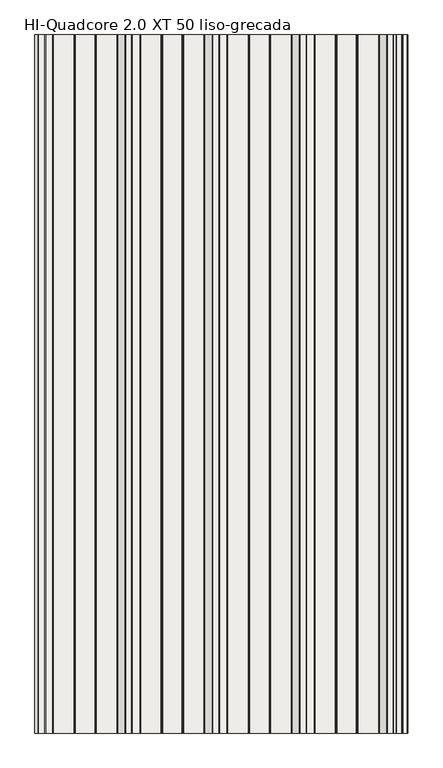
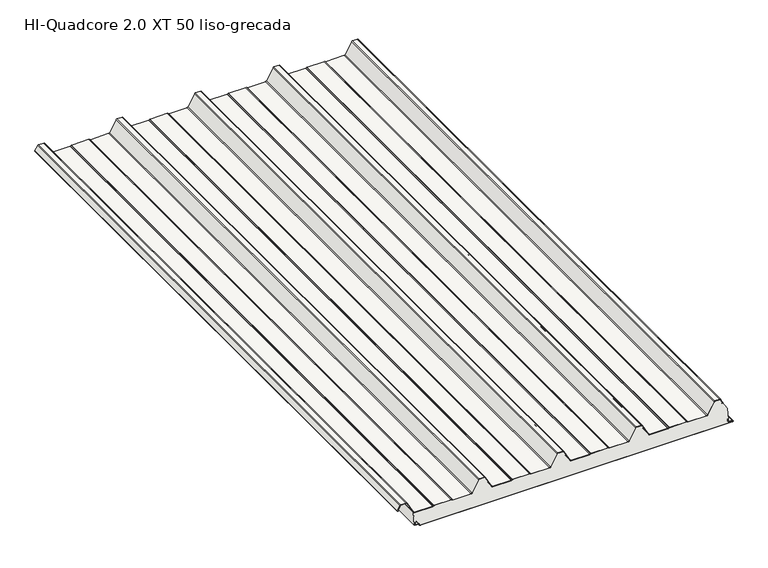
"""IFC4 building model written with IfcOpenShell, lengths in millimetres: slab geometry, HI_QuadCore2.0XT-XT DUAL : HI-Quadcore 2.0 XT 50 liso-grecada."""

from ifc_helpers import new_model, si_unit, point, frame, frame_2d, origin, place, context, project, spatial, polyline, circle_curve, trimmed, segment, composite_curve, outline, extrude, source, transform, mapped, element, save
from ifc_brep_helpers import plane_surface, cylinder_surface, revolved_surface, advanced_brep


def hi_quadcore_2_0_xt_50_liso_grecada_a248ecb3(model_context):
    return source(origin(), model_context, "Body", "SolidModel", [
        advanced_brep(
        [(1186.4313891, 0.0, 13.3795578), (1185.8456418, 0.0, 11.9654043), (1185.8456037, 0.0, 8.2995811), (1187.6996787, 0.0, 6.328543), (1198.1077232, 0.0, 5.5663871), (1199.9032632, 0.0, 3.5769209), (1199.9033076, 0.0, 1.9756011), (1201.903363, 0.0, -0.0243435), (2197.9162803, 0.0, 0.003269), (2199.9046779, 0.0, 2.0032908), (2199.904653, 0.0, 2.9012893), (2198.0077486, 0.0, 4.8985749), (2186.1928118, 0.0, 5.7933732), (2184.3438482, 0.0, 7.7876066), (2184.3437386, 0.0, 11.7402379), (2183.757913, 0.0, 13.1544352), (2182.3436602, 0.0, 14.5686095), (2181.7779748, 0.0, 14.0029241), (2183.1922433, 0.0, 12.5887341), (2183.5437386, 0.0, 11.7402157), (2183.5438482, 0.0, 7.7875844), (2186.1323972, 0.0, 4.9956577), (2197.958132, 0.0, 4.1000416), (2199.104653, 0.0, 2.9012672), (2199.1046779, 0.0, 2.0032686), (2197.9136554, 0.0, 0.8032689), (1201.9033408, 0.0, 0.7756565), (1200.7033076, 0.0, 1.9756233), (1200.7032632, 0.0, 3.5769431), (1198.1768616, 0.0, 6.3634663), (1187.7581044, 0.0, 7.1264067), (1186.6457428, 0.0, 8.3231689), (1186.6456418, 0.0, 11.965396), (1186.9970902, 0.0, 12.8138881), (1189.1032183, 0.0, 14.920133), (1188.5375329, 0.0, 15.4858184), (1186.4313891, 2000.0, 13.3795578), (1188.5375329, 2000.0, 15.4858184), (1189.1032183, 2000.0, 14.920133), (1186.9970902, 2000.0, 12.8138881), (1186.6456418, 2000.0, 11.965396), (1186.6456037, 2000.0, 8.2995728), (1187.7581044, 2000.0, 7.1264067), (1198.1768616, 2000.0, 6.3634663), (1200.7032632, 2000.0, 3.5769431), (1200.7033076, 2000.0, 1.9756233), (1201.9033408, 2000.0, 0.7756565), (2197.9136554, 2000.0, 0.8032689), (2199.1046779, 2000.0, 2.0032686), (2199.104653, 2000.0, 2.9012672), (2197.958132, 2000.0, 4.1000416), (2186.1323972, 2000.0, 4.9956577), (2183.5438482, 2000.0, 7.7875844), (2183.5437386, 2000.0, 11.7402157), (2183.1922433, 2000.0, 12.5887341), (2181.7779748, 2000.0, 14.0029241), (2182.3436602, 2000.0, 14.5686095), (2183.757913, 2000.0, 13.1544352), (2184.3437386, 2000.0, 11.7402379), (2184.3438482, 2000.0, 7.7876066), (2186.1928118, 2000.0, 5.7933732), (2198.0077486, 2000.0, 4.8985749), (2199.904653, 2000.0, 2.9012893), (2199.9046779, 2000.0, 2.0032908), (2197.9162803, 2000.0, 0.003269), (1201.903363, 2000.0, -0.0243435), (1199.9033076, 2000.0, 1.9756011), (1199.9032632, 2000.0, 3.5769209), (1198.1077232, 2000.0, 5.5663871), (1187.6996787, 2000.0, 6.328543), (1185.8457428, 2000.0, 8.3231467), (1185.8456418, 2000.0, 11.9654043)],
        [
            (0, 1, circle_curve(frame((1187.8456418, 0.0, 11.9653834), z_axis=(0.0, -1.0, 0.0), x_axis=(1.0, 0.0, 0.0)), 2.0)),
            (1, 2),
            (2, 3, circle_curve(frame((1187.8457428, 0.0, 8.3232022), z_axis=(0.0, -1.0, 0.0), x_axis=(1.0, 0.0, 0.0)), 2.0)),
            (3, 4),
            (4, 5, circle_curve(frame((1197.9032632, 0.0, 3.5768655), z_axis=(0.0, 1.0, 0.0), x_axis=(1.0, 0.0, 0.0)), 2.0)),
            (5, 6),
            (6, 7, circle_curve(frame((1201.9033076, 0.0, 1.9756565), z_axis=(0.0, -1.0, 0.0), x_axis=(1.0, 0.0, 0.0)), 2.0)),
            (7, 8),
            (8, 9, circle_curve(frame((2197.9046779, 0.0, 2.0032353), z_axis=(0.0, -1.0, 0.0), x_axis=(1.0, 0.0, 0.0)), 2.0)),
            (9, 10),
            (10, 11, circle_curve(frame((2197.904653, 0.0, 2.9012339), z_axis=(0.0, -1.0, 0.0), x_axis=(1.0, 0.0, 0.0)), 2.0)),
            (11, 12),
            (12, 13, circle_curve(frame((2186.3438482, 0.0, 7.7876621), z_axis=(0.0, 1.0, 0.0), x_axis=(1.0, 0.0, 0.0)), 2.0)),
            (13, 14),
            (14, 15, circle_curve(frame((2182.3437386, 0.0, 11.7401824), z_axis=(0.0, -1.0, 0.0), x_axis=(1.0, 0.0, 0.0)), 2.0)),
            (15, 16),
            (16, 17),
            (17, 18),
            (18, 19, circle_curve(frame((2182.3437386, 0.0, 11.7401824), z_axis=(0.0, 1.0, 0.0), x_axis=(1.0, 0.0, 0.0)), 1.2)),
            (19, 20),
            (20, 21, circle_curve(frame((2186.3438482, 0.0, 7.7876621), z_axis=(0.0, -1.0, 0.0), x_axis=(1.0, 0.0, 0.0)), 2.8)),
            (21, 22),
            (22, 23, circle_curve(frame((2197.904653, 0.0, 2.9012339), z_axis=(0.0, 1.0, 0.0), x_axis=(1.0, 0.0, 0.0)), 1.2)),
            (23, 24),
            (24, 25, circle_curve(frame((2197.9046779, 0.0, 2.0032353), z_axis=(0.0, 1.0, 0.0), x_axis=(1.0, 0.0, 0.0)), 1.2)),
            (25, 26),
            (26, 27, circle_curve(frame((1201.9033076, 0.0, 1.9756565), z_axis=(0.0, 1.0, 0.0), x_axis=(1.0, 0.0, 0.0)), 1.2)),
            (27, 28),
            (28, 29, circle_curve(frame((1197.9032632, 0.0, 3.5768655), z_axis=(0.0, -1.0, 0.0), x_axis=(1.0, 0.0, 0.0)), 2.8)),
            (29, 30),
            (30, 31, circle_curve(frame((1187.8457428, 0.0, 8.3232022), z_axis=(0.0, 1.0, 0.0), x_axis=(1.0, 0.0, 0.0)), 1.2)),
            (31, 32),
            (32, 33, circle_curve(frame((1187.8456418, 0.0, 11.9653834), z_axis=(0.0, 1.0, 0.0), x_axis=(1.0, 0.0, 0.0)), 1.2)),
            (33, 34),
            (34, 35),
            (35, 0),
            (36, 37),
            (37, 38),
            (38, 39),
            (39, 40, circle_curve(frame((1187.8456418, 2000.0, 11.9653834), z_axis=(0.0, -1.0, 0.0), x_axis=(1.0, 0.0, 0.0)), 1.2)),
            (40, 41),
            (41, 42, circle_curve(frame((1187.8457428, 2000.0, 8.3232022), z_axis=(0.0, -1.0, 0.0), x_axis=(1.0, 0.0, 0.0)), 1.2)),
            (42, 43),
            (43, 44, circle_curve(frame((1197.9032632, 2000.0, 3.5768655), z_axis=(0.0, 1.0, 0.0), x_axis=(1.0, 0.0, 0.0)), 2.8)),
            (44, 45),
            (45, 46, circle_curve(frame((1201.9033076, 2000.0, 1.9756565), z_axis=(0.0, -1.0, 0.0), x_axis=(1.0, 0.0, 0.0)), 1.2)),
            (46, 47),
            (47, 48, circle_curve(frame((2197.9046779, 2000.0, 2.0032353), z_axis=(0.0, -1.0, 0.0), x_axis=(1.0, 0.0, 0.0)), 1.2)),
            (48, 49),
            (49, 50, circle_curve(frame((2197.904653, 2000.0, 2.9012339), z_axis=(0.0, -1.0, 0.0), x_axis=(1.0, 0.0, 0.0)), 1.2)),
            (50, 51),
            (51, 52, circle_curve(frame((2186.3438482, 2000.0, 7.7876621), z_axis=(0.0, 1.0, 0.0), x_axis=(1.0, 0.0, 0.0)), 2.8)),
            (52, 53),
            (53, 54, circle_curve(frame((2182.3437386, 2000.0, 11.7401824), z_axis=(0.0, -1.0, 0.0), x_axis=(1.0, 0.0, 0.0)), 1.2)),
            (54, 55),
            (55, 56),
            (56, 57),
            (57, 58, circle_curve(frame((2182.3437386, 2000.0, 11.7401824), z_axis=(0.0, 1.0, 0.0), x_axis=(1.0, 0.0, 0.0)), 2.0)),
            (58, 59),
            (59, 60, circle_curve(frame((2186.3438482, 2000.0, 7.7876621), z_axis=(0.0, -1.0, 0.0), x_axis=(1.0, 0.0, 0.0)), 2.0)),
            (60, 61),
            (61, 62, circle_curve(frame((2197.904653, 2000.0, 2.9012339), z_axis=(0.0, 1.0, 0.0), x_axis=(1.0, 0.0, 0.0)), 2.0)),
            (62, 63),
            (63, 64, circle_curve(frame((2197.9046779, 2000.0, 2.0032353), z_axis=(0.0, 1.0, 0.0), x_axis=(1.0, 0.0, 0.0)), 2.0)),
            (64, 65),
            (65, 66, circle_curve(frame((1201.9033076, 2000.0, 1.9756565), z_axis=(0.0, 1.0, 0.0), x_axis=(1.0, 0.0, 0.0)), 2.0)),
            (66, 67),
            (67, 68, circle_curve(frame((1197.9032632, 2000.0, 3.5768655), z_axis=(0.0, -1.0, 0.0), x_axis=(1.0, 0.0, 0.0)), 2.0)),
            (68, 69),
            (69, 70, circle_curve(frame((1187.8457428, 2000.0, 8.3232022), z_axis=(0.0, 1.0, 0.0), x_axis=(1.0, 0.0, 0.0)), 2.0)),
            (70, 71),
            (71, 36, circle_curve(frame((1187.8456418, 2000.0, 11.9653834), z_axis=(0.0, 1.0, 0.0), x_axis=(1.0, 0.0, 0.0)), 2.0)),
            (0, 36),
            (71, 1),
            (70, 2),
            (69, 3),
            (68, 4),
            (67, 5),
            (66, 6),
            (65, 7),
            (64, 8),
            (63, 9),
            (62, 10),
            (61, 11),
            (60, 12),
            (59, 13),
            (58, 14),
            (57, 15),
            (56, 16),
            (55, 17),
            (54, 18),
            (53, 19),
            (52, 20),
            (51, 21),
            (50, 22),
            (49, 23),
            (48, 24),
            (47, 25),
            (46, 26),
            (45, 27),
            (44, 28),
            (43, 29),
            (42, 30),
            (41, 31),
            (40, 32),
            (39, 33),
            (38, 34),
            (37, 35),
        ],
        [
            plane_surface(frame((1189.8456418, 0.0, 11.9653834), z_axis=(0.0, -1.0, 0.0), x_axis=(0.0, 0.0, 1.0))),
            plane_surface(frame((1189.8456418, 2000.0, 11.9653834), z_axis=(0.0, 1.0, 0.0), x_axis=(0.0, 0.0, -1.0))),
            cylinder_surface(frame((1187.8456418, 2000.0, 11.9653834), z_axis=(0.0, -1.0, 0.0), x_axis=(1.0, 0.0, 0.0)), 2.0),
            plane_surface(frame((1185.8456418, 0.0, 11.9654043), z_axis=(-0.9999999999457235, 0.0, 1.041887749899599e-05), x_axis=(0.0, 1.0, 0.0))),
            cylinder_surface(frame((1187.8457428, 2000.0, 8.3232022), z_axis=(0.0, -1.0, 0.0), x_axis=(1.0, 0.0, 0.0)), 2.0),
            plane_surface(frame((1187.6996787, 0.0, 6.328543), z_axis=(-0.07303203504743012, 0.0, -0.9973295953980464), x_axis=(0.0, 1.0, 0.0))),
            revolved_surface(polyline([(1199.9032632, 2000.0, 3.5768655), (1199.9032632, 0.0, 3.5768655)]), (1197.9032632, 2000.0, 3.5768655), (0.0, 1.0, 0.0)),
            plane_surface(frame((1199.9032632, 0.0, 3.5769209), z_axis=(-0.9999999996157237, 0.0, -2.7722781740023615e-05), x_axis=(0.0, 1.0, 0.0))),
            cylinder_surface(frame((1201.9033076, 2000.0, 1.9756565), z_axis=(0.0, -1.0, 0.0), x_axis=(1.0, 0.0, 0.0)), 2.0),
            plane_surface(frame((1201.903363, 0.0, -0.0243435), z_axis=(2.772298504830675e-05, 0.0, -0.9999999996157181), x_axis=(0.0, 1.0, 0.0))),
            cylinder_surface(frame((2197.9046779, 2000.0, 2.0032353), z_axis=(0.0, -1.0, 0.0), x_axis=(1.0, 0.0, 0.0)), 2.0),
            plane_surface(frame((2199.9046779, 0.0, 2.0032908), z_axis=(0.9999999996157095, 0.0, 2.7723295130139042e-05), x_axis=(0.0, 1.0, 0.0))),
            cylinder_surface(frame((2197.904653, 2000.0, 2.9012339), z_axis=(0.0, -1.0, 0.0), x_axis=(1.0, 0.0, 0.0)), 2.0),
            plane_surface(frame((2198.0077486, 0.0, 4.8985749), z_axis=(0.07551822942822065, 0.0, 0.9971444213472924), x_axis=(0.0, 1.0, 0.0))),
            revolved_surface(polyline([(2188.3438482, 2000.0, 7.7876621), (2188.3438482, 0.0, 7.7876621)]), (2186.3438482, 2000.0, 7.7876621), (0.0, 1.0, 0.0)),
            plane_surface(frame((2184.3438482, 0.0, 7.7876066), z_axis=(0.9999999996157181, 0.0, 2.7722984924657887e-05), x_axis=(0.0, 1.0, 0.0))),
            cylinder_surface(frame((2182.3437386, 2000.0, 11.7401824), z_axis=(0.0, -1.0, 0.0), x_axis=(1.0, 0.0, 0.0)), 2.0),
            plane_surface(frame((2183.757913, 0.0, 13.1544352), z_axis=(0.7070871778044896, 0.0, 0.7071263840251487), x_axis=(0.0, 1.0, 0.0))),
            plane_surface(frame((2182.3436602, 0.0, 14.5686095), z_axis=(-0.7071067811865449, 0.0, 0.7071067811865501), x_axis=(0.0, 1.0, 0.0))),
            plane_surface(frame((2181.7779748, 0.0, 14.0029241), z_axis=(-0.7070871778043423, 0.0, -0.707126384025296), x_axis=(0.0, 1.0, 0.0))),
            revolved_surface(polyline([(2183.5437386, 2000.0, 11.7401824), (2183.5437386, 0.0, 11.7401824)]), (2182.3437386, 2000.0, 11.7401824), (0.0, 1.0, 0.0)),
            plane_surface(frame((2183.5437386, 0.0, 11.7402157), z_axis=(-0.9999999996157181, 0.0, -2.7722985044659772e-05), x_axis=(0.0, 1.0, 0.0))),
            cylinder_surface(frame((2186.3438482, 2000.0, 7.7876621), z_axis=(0.0, -1.0, 0.0), x_axis=(1.0, 0.0, 0.0)), 2.8),
            plane_surface(frame((2186.1323972, 0.0, 4.9956577), z_axis=(-0.07551822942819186, 0.0, -0.9971444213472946), x_axis=(0.0, 1.0, 0.0))),
            revolved_surface(polyline([(2199.104653, 2000.0, 2.9012339), (2199.104653, 0.0, 2.9012339)]), (2197.904653, 2000.0, 2.9012339), (0.0, 1.0, 0.0)),
            plane_surface(frame((2199.104653, 0.0, 2.9012672), z_axis=(-0.9999999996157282, 0.0, -2.7722622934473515e-05), x_axis=(0.0, 1.0, 0.0))),
            revolved_surface(polyline([(2199.1046779, 2000.0, 2.0032353), (2199.1046779, 0.0, 2.0032353)]), (2197.9046779, 2000.0, 2.0032353), (0.0, 1.0, 0.0)),
            plane_surface(frame((2197.9136554, 0.0, 0.8032689), z_axis=(-2.7722985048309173e-05, 0.0, 0.9999999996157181), x_axis=(0.0, 1.0, 0.0))),
            revolved_surface(polyline([(1203.1033076, 2000.0, 1.9756565), (1203.1033076, 0.0, 1.9756565)]), (1201.9033076, 2000.0, 1.9756565), (0.0, 1.0, 0.0)),
            plane_surface(frame((1200.7033076, 0.0, 1.9756233), z_axis=(0.9999999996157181, 0.0, 2.7722983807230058e-05), x_axis=(0.0, 1.0, 0.0))),
            cylinder_surface(frame((1197.9032632, 2000.0, 3.5768655), z_axis=(0.0, -1.0, 0.0), x_axis=(1.0, 0.0, 0.0)), 2.8),
            plane_surface(frame((1198.1768616, 0.0, 6.3634663), z_axis=(0.0730320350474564, 0.0, 0.9973295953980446), x_axis=(0.0, 1.0, 0.0))),
            revolved_surface(polyline([(1189.0457428, 2000.0, 8.3232022), (1189.0457428, 0.0, 8.3232022)]), (1187.8457428, 2000.0, 8.3232022), (0.0, 1.0, 0.0)),
            plane_surface(frame((1186.6456037, 0.0, 8.2995728), z_axis=(0.9999999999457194, 0.0, -1.0419274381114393e-05), x_axis=(0.0, 1.0, 0.0))),
            revolved_surface(polyline([(1189.0456418, 2000.0, 11.9653834), (1189.0456418, 0.0, 11.9653834)]), (1187.8456418, 2000.0, 11.9653834), (0.0, 1.0, 0.0)),
            plane_surface(frame((1186.9970902, 0.0, 12.8138881), z_axis=(0.7071263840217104, 0.0, -0.7070871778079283), x_axis=(0.0, 1.0, 0.0))),
            plane_surface(frame((1189.1032183, 0.0, 14.920133), z_axis=(0.7071067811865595, 0.0, 0.7071067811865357), x_axis=(0.0, 1.0, 0.0))),
            plane_surface(frame((1188.5375329, 0.0, 15.4858184), z_axis=(-0.7071263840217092, 0.0, 0.7070871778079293), x_axis=(0.0, 1.0, 0.0))),
        ],
        [
            (0, [[1, 2, 3, 4, 5, 6, 7, 8, 9, 10, 11, 12, 13, 14, 15, 16, 17, 18, 19, 20, 21, 22, 23, 24, 25, 26, 27, 28, 29, 30, 31, 32, 33, 34, 35, 36]]),
            (1, [[37, 38, 39, 40, 41, 42, 43, 44, 45, 46, 47, 48, 49, 50, 51, 52, 53, 54, 55, 56, 57, 58, 59, 60, 61, 62, 63, 64, 65, 66, 67, 68, 69, 70, 71, 72]]),
            (2, [[-1, 73, -72, 74]]),
            (3, [[-2, -74, -71, 75]]),
            (4, [[-3, -75, -70, 76]]),
            (5, [[-4, -76, -69, 77]]),
            (6, [[-5, -77, -68, 78]]),
            (7, [[-6, -78, -67, 79]]),
            (8, [[-7, -79, -66, 80]]),
            (9, [[-8, -80, -65, 81]]),
            (10, [[-9, -81, -64, 82]]),
            (11, [[-10, -82, -63, 83]]),
            (12, [[-11, -83, -62, 84]]),
            (13, [[-12, -84, -61, 85]]),
            (14, [[-13, -85, -60, 86]]),
            (15, [[-14, -86, -59, 87]]),
            (16, [[-15, -87, -58, 88]]),
            (17, [[-16, -88, -57, 89]]),
            (18, [[-17, -89, -56, 90]]),
            (19, [[-18, -90, -55, 91]]),
            (20, [[-19, -91, -54, 92]]),
            (21, [[-20, -92, -53, 93]]),
            (22, [[-21, -93, -52, 94]]),
            (23, [[-22, -94, -51, 95]]),
            (24, [[-23, -95, -50, 96]]),
            (25, [[-24, -96, -49, 97]]),
            (26, [[-25, -97, -48, 98]]),
            (27, [[-26, -98, -47, 99]]),
            (28, [[-27, -99, -46, 100]]),
            (29, [[-28, -100, -45, 101]]),
            (30, [[-29, -101, -44, 102]]),
            (31, [[-30, -102, -43, 103]]),
            (32, [[-31, -103, -42, 104]]),
            (33, [[-32, -104, -41, 105]]),
            (34, [[-33, -105, -40, 106]]),
            (35, [[-34, -106, -39, 107]]),
            (36, [[-35, -107, -38, 108]]),
            (37, [[-36, -108, -37, -73]]),
        ],
    ),
        extrude(outline(composite_curve([segment(polyline([(88.1649405, 1138.5141429), (73.6579587, 1130.3539656)]), True, "CONTINUOUS"), segment(trimmed(circle_curve(frame_2d((73.0451321, 1131.443435)), 1.25), [point((73.6579587, 1130.3539656))], [point((72.689225, 1132.6416963))], False, "CARTESIAN"), True, "CONTINUOUS"), segment(polyline([(72.689225, 1132.6416963), (75.7359115, 1133.437141), (75.9380053, 1132.663088), (72.9074492, 1131.8718547)]), True, "CONTINUOUS"), segment(trimmed(circle_curve(frame_2d((73.0451321, 1131.443435)), 0.45), [point((72.9074492, 1131.8718547))], [point((73.2657497, 1131.051226))], True, "CARTESIAN"), True, "CONTINUOUS"), segment(polyline([(73.2657497, 1131.051226), (87.7727315, 1139.2114033)]), True, "CONTINUOUS"), segment(trimmed(circle_curve(frame_2d((86.4, 1141.6518148)), 2.8), [point((87.7727315, 1139.2114033))], [point((89.2, 1141.6518148))], True, "CARTESIAN"), True, "CONTINUOUS"), segment(polyline([(89.2, 1141.6518148), (89.2, 1158.9311117)]), True, "CONTINUOUS"), segment(trimmed(circle_curve(frame_2d((86.4, 1158.9311117)), 2.8), [point((89.2, 1158.9311117))], [point((87.5457267, 1161.4859719))], True, "CARTESIAN"), True, "CONTINUOUS"), segment(polyline([(87.5457267, 1161.4859719), (51.2048889, 1181.3052775)]), True, "CONTINUOUS"), segment(trimmed(circle_curve(frame_2d((53.0, 1184.6545425)), 3.8), [point((51.2048889, 1181.3052775))], [point((49.2, 1184.6545425))], False, "CARTESIAN"), True, "CONTINUOUS"), segment(polyline([(49.2, 1184.6545425), (49.2, 1242.4489557)]), True, "CONTINUOUS"), segment(trimmed(circle_curve(frame_2d((53.0, 1242.4489557)), 3.8), [point((49.2, 1242.4489557))], [point((49.6973596, 1244.328468))], False, "CARTESIAN"), True, "CONTINUOUS"), segment(polyline([(49.6973596, 1244.328468), (50.912055, 1246.4629056)]), True, "CONTINUOUS"), segment(trimmed(circle_curve(frame_2d((49.0, 1247.5510443)), 2.2), [point((50.912055, 1246.4629056))], [point((51.2, 1247.5510443))], True, "CARTESIAN"), True, "CONTINUOUS"), segment(polyline([(51.2, 1247.5510443), (51.2, 1302.4489557)]), True, "CONTINUOUS"), segment(trimmed(circle_curve(frame_2d((49.0, 1302.4489557)), 2.2), [point((51.2, 1302.4489557))], [point((50.912055, 1303.5370944))], True, "CARTESIAN"), True, "CONTINUOUS"), segment(polyline([(50.912055, 1303.5370944), (49.6973596, 1305.671532)]), True, "CONTINUOUS"), segment(trimmed(circle_curve(frame_2d((53.0, 1307.5510443)), 3.8), [point((49.6973596, 1305.671532))], [point((49.2, 1307.5510443))], False, "CARTESIAN"), True, "CONTINUOUS"), segment(polyline([(49.2, 1307.5510443), (49.2, 1365.7454575)]), True, "CONTINUOUS"), segment(trimmed(circle_curve(frame_2d((53.0, 1365.7454575)), 3.8), [point((49.2, 1365.7454575))], [point((51.1370073, 1369.0574446))], False, "CARTESIAN"), True, "CONTINUOUS"), segment(polyline([(51.1370073, 1369.0574446), (88.0785747, 1389.8370763)]), True, "CONTINUOUS"), segment(trimmed(circle_curve(frame_2d((87.0, 1391.7545425)), 2.2), [point((88.0785747, 1389.8370763))], [point((89.2, 1391.7545425))], True, "CARTESIAN"), True, "CONTINUOUS"), segment(polyline([(89.2, 1391.7545425), (89.2, 1408.2454575)]), True, "CONTINUOUS"), segment(trimmed(circle_curve(frame_2d((87.0, 1408.2454575)), 2.2), [point((89.2, 1408.2454575))], [point((88.0785747, 1410.1629237))], True, "CARTESIAN"), True, "CONTINUOUS"), segment(polyline([(88.0785747, 1410.1629237), (51.1370073, 1430.9425554)]), True, "CONTINUOUS"), segment(trimmed(circle_curve(frame_2d((53.0, 1434.2545425)), 3.8), [point((51.1370073, 1430.9425554))], [point((49.2, 1434.2545425))], False, "CARTESIAN"), True, "CONTINUOUS"), segment(polyline([(49.2, 1434.2545425), (49.2, 1492.4489557)]), True, "CONTINUOUS"), segment(trimmed(circle_curve(frame_2d((53.0, 1492.4489557)), 3.8), [point((49.2, 1492.4489557))], [point((49.6973596, 1494.328468))], False, "CARTESIAN"), True, "CONTINUOUS"), segment(polyline([(49.6973596, 1494.328468), (50.912055, 1496.4629056)]), True, "CONTINUOUS"), segment(trimmed(circle_curve(frame_2d((49.0, 1497.5510443)), 2.2), [point((50.912055, 1496.4629056))], [point((51.2, 1497.5510443))], True, "CARTESIAN"), True, "CONTINUOUS"), segment(polyline([(51.2, 1497.5510443), (51.2, 1552.4489557)]), True, "CONTINUOUS"), segment(trimmed(circle_curve(frame_2d((49.0, 1552.4489557)), 2.2), [point((51.2, 1552.4489557))], [point((50.912055, 1553.5370944))], True, "CARTESIAN"), True, "CONTINUOUS"), segment(polyline([(50.912055, 1553.5370944), (49.6973596, 1555.671532)]), True, "CONTINUOUS"), segment(trimmed(circle_curve(frame_2d((53.0, 1557.5510443)), 3.8), [point((49.6973596, 1555.671532))], [point((49.2, 1557.5510443))], False, "CARTESIAN"), True, "CONTINUOUS"), segment(polyline([(49.2, 1557.5510443), (49.2, 1615.7454575)]), True, "CONTINUOUS"), segment(trimmed(circle_curve(frame_2d((53.0, 1615.7454575)), 3.8), [point((49.2, 1615.7454575))], [point((51.1370073, 1619.0574446))], False, "CARTESIAN"), True, "CONTINUOUS"), segment(polyline([(51.1370073, 1619.0574446), (88.0785747, 1639.8370763)]), True, "CONTINUOUS"), segment(trimmed(circle_curve(frame_2d((87.0, 1641.7545425)), 2.2), [point((88.0785747, 1639.8370763))], [point((89.2, 1641.7545425))], True, "CARTESIAN"), True, "CONTINUOUS"), segment(polyline([(89.2, 1641.7545425), (89.2, 1658.2454575)]), True, "CONTINUOUS"), segment(trimmed(circle_curve(frame_2d((87.0, 1658.2454575)), 2.2), [point((89.2, 1658.2454575))], [point((88.0785747, 1660.1629237))], True, "CARTESIAN"), True, "CONTINUOUS"), segment(polyline([(88.0785747, 1660.1629237), (51.1370073, 1680.9425554)]), True, "CONTINUOUS"), segment(trimmed(circle_curve(frame_2d((53.0, 1684.2545425)), 3.8), [point((51.1370073, 1680.9425554))], [point((49.2, 1684.2545425))], False, "CARTESIAN"), True, "CONTINUOUS"), segment(polyline([(49.2, 1684.2545425), (49.2, 1742.4489557)]), True, "CONTINUOUS"), segment(trimmed(circle_curve(frame_2d((53.0, 1742.4489557)), 3.8), [point((49.2, 1742.4489557))], [point((49.6973596, 1744.328468))], False, "CARTESIAN"), True, "CONTINUOUS"), segment(polyline([(49.6973596, 1744.328468), (50.912055, 1746.4629056)]), True, "CONTINUOUS"), segment(trimmed(circle_curve(frame_2d((49.0, 1747.5510443)), 2.2), [point((50.912055, 1746.4629056))], [point((51.2, 1747.5510443))], True, "CARTESIAN"), True, "CONTINUOUS"), segment(polyline([(51.2, 1747.5510443), (51.2, 1802.4489557)]), True, "CONTINUOUS"), segment(trimmed(circle_curve(frame_2d((49.0, 1802.4489557)), 2.2), [point((51.2, 1802.4489557))], [point((50.912055, 1803.5370944))], True, "CARTESIAN"), True, "CONTINUOUS"), segment(polyline([(50.912055, 1803.5370944), (49.6973596, 1805.671532)]), True, "CONTINUOUS"), segment(trimmed(circle_curve(frame_2d((53.0, 1807.5510443)), 3.8), [point((49.6973596, 1805.671532))], [point((49.2, 1807.5510443))], False, "CARTESIAN"), True, "CONTINUOUS"), segment(polyline([(49.2, 1807.5510443), (49.2, 1865.7454575)]), True, "CONTINUOUS"), segment(trimmed(circle_curve(frame_2d((53.0, 1865.7454575)), 3.8), [point((49.2, 1865.7454575))], [point((51.1370073, 1869.0574446))], False, "CARTESIAN"), True, "CONTINUOUS"), segment(polyline([(51.1370073, 1869.0574446), (88.0785747, 1889.8370763)]), True, "CONTINUOUS"), segment(trimmed(circle_curve(frame_2d((87.0, 1891.7545425)), 2.2), [point((88.0785747, 1889.8370763))], [point((89.2, 1891.7545425))], True, "CARTESIAN"), True, "CONTINUOUS"), segment(polyline([(89.2, 1891.7545425), (89.2, 1908.2454575)]), True, "CONTINUOUS"), segment(trimmed(circle_curve(frame_2d((87.0, 1908.2454575)), 2.2), [point((89.2, 1908.2454575))], [point((88.0785747, 1910.1629237))], True, "CARTESIAN"), True, "CONTINUOUS"), segment(polyline([(88.0785747, 1910.1629237), (51.1370073, 1930.9425554)]), True, "CONTINUOUS"), segment(trimmed(circle_curve(frame_2d((53.0, 1934.2545425)), 3.8), [point((51.1370073, 1930.9425554))], [point((49.2, 1934.2545425))], False, "CARTESIAN"), True, "CONTINUOUS"), segment(polyline([(49.2, 1934.2545425), (49.2, 1992.4489557)]), True, "CONTINUOUS"), segment(trimmed(circle_curve(frame_2d((53.0, 1992.4489557)), 3.8), [point((49.2, 1992.4489557))], [point((49.6973596, 1994.328468))], False, "CARTESIAN"), True, "CONTINUOUS"), segment(polyline([(49.6973596, 1994.328468), (50.912055, 1996.4629056)]), True, "CONTINUOUS"), segment(trimmed(circle_curve(frame_2d((49.0, 1997.5510443)), 2.2), [point((50.912055, 1996.4629056))], [point((51.2, 1997.5510443))], True, "CARTESIAN"), True, "CONTINUOUS"), segment(polyline([(51.2, 1997.5510443), (51.2, 2052.4489557)]), True, "CONTINUOUS"), segment(trimmed(circle_curve(frame_2d((49.0, 2052.4489557)), 2.2), [point((51.2, 2052.4489557))], [point((50.912055, 2053.5370944))], True, "CARTESIAN"), True, "CONTINUOUS"), segment(polyline([(50.912055, 2053.5370944), (49.6973596, 2055.671532)]), True, "CONTINUOUS"), segment(trimmed(circle_curve(frame_2d((53.0, 2057.5510443)), 3.8), [point((49.6973596, 2055.671532))], [point((49.2, 2057.5510443))], False, "CARTESIAN"), True, "CONTINUOUS"), segment(polyline([(49.2, 2057.5510443), (49.2, 2116.4208923)]), True, "CONTINUOUS"), segment(trimmed(circle_curve(frame_2d((53.0, 2116.4208923)), 3.8), [point((49.2, 2116.4208923))], [point((51.1583504, 2119.7447946))], False, "CARTESIAN"), True, "CONTINUOUS"), segment(polyline([(51.1583504, 2119.7447946), (88.0662182, 2140.1940602)]), True, "CONTINUOUS"), segment(trimmed(circle_curve(frame_2d((87.0, 2142.1184247)), 2.2), [point((88.0662182, 2140.1940602))], [point((89.2, 2142.1184247))], True, "CARTESIAN"), True, "CONTINUOUS"), segment(polyline([(89.2, 2142.1184247), (89.2, 2157.4945491)]), True, "CONTINUOUS"), segment(trimmed(circle_curve(frame_2d((87.0, 2157.4945491)), 2.2), [point((89.2, 2157.4945491))], [point((88.0785747, 2159.4120152))], True, "CARTESIAN"), True, "CONTINUOUS"), segment(polyline([(88.0785747, 2159.4120152), (77.5275176, 2165.3469849)]), True, "CONTINUOUS"), segment(trimmed(circle_curve(frame_2d((76.9392041, 2164.3010942)), 1.2), [point((77.5275176, 2165.3469849))], [point((76.3392623, 2165.3403583))], True, "CARTESIAN"), True, "CONTINUOUS"), segment(polyline([(76.3392623, 2165.3403583), (74.7281681, 2164.4103128), (74.3282068, 2165.1031555), (75.939301, 2166.033201)]), True, "CONTINUOUS"), segment(trimmed(circle_curve(frame_2d((76.9392041, 2164.3010942)), 2.0), [point((75.939301, 2166.033201))], [point((77.9197266, 2166.0442453))], False, "CARTESIAN"), True, "CONTINUOUS"), segment(polyline([(77.9197266, 2166.0442453), (88.4707837, 2160.1092757)]), True, "CONTINUOUS"), segment(trimmed(circle_curve(frame_2d((87.0, 2157.4945491)), 3.0), [point((88.4707837, 2160.1092757))], [point((90.0, 2157.4945491))], False, "CARTESIAN"), True, "CONTINUOUS"), segment(polyline([(90.0, 2157.4945491), (90.0, 2142.1184247)]), True, "CONTINUOUS"), segment(trimmed(circle_curve(frame_2d((87.0, 2142.1184247)), 3.0), [point((90.0, 2142.1184247))], [point((88.4539339, 2139.4942913))], False, "CARTESIAN"), True, "CONTINUOUS"), segment(polyline([(88.4539339, 2139.4942913), (51.5460661, 2119.0450257)]), True, "CONTINUOUS"), segment(trimmed(circle_curve(frame_2d((53.0, 2116.4208923)), 3.0), [point((51.5460661, 2119.0450257))], [point((50.0, 2116.4208923))], True, "CARTESIAN"), True, "CONTINUOUS"), segment(polyline([(50.0, 2116.4208923), (50.0, 2057.5510443)]), True, "CONTINUOUS"), segment(trimmed(circle_curve(frame_2d((53.0, 2057.5510443)), 3.0), [point((50.0, 2057.5510443))], [point((50.3926523, 2056.0672188))], True, "CARTESIAN"), True, "CONTINUOUS"), segment(polyline([(50.3926523, 2056.0672188), (51.6073477, 2053.9327812)]), True, "CONTINUOUS"), segment(trimmed(circle_curve(frame_2d((49.0, 2052.4489557)), 3.0), [point((51.6073477, 2053.9327812))], [point((52.0, 2052.4489557))], False, "CARTESIAN"), True, "CONTINUOUS"), segment(polyline([(52.0, 2052.4489557), (52.0, 1997.5510443)]), True, "CONTINUOUS"), segment(trimmed(circle_curve(frame_2d((49.0, 1997.5510443)), 3.0), [point((52.0, 1997.5510443))], [point((51.6073477, 1996.0672188))], False, "CARTESIAN"), True, "CONTINUOUS"), segment(polyline([(51.6073477, 1996.0672188), (50.3926523, 1993.9327812)]), True, "CONTINUOUS"), segment(trimmed(circle_curve(frame_2d((53.0, 1992.4489557)), 3.0), [point((50.3926523, 1993.9327812))], [point((50.0, 1992.4489557))], True, "CARTESIAN"), True, "CONTINUOUS"), segment(polyline([(50.0, 1992.4489557), (50.0, 1934.2545425)]), True, "CONTINUOUS"), segment(trimmed(circle_curve(frame_2d((53.0, 1934.2545425)), 3.0), [point((50.0, 1934.2545425))], [point((51.5292163, 1931.6398158))], True, "CARTESIAN"), True, "CONTINUOUS"), segment(polyline([(51.5292163, 1931.6398158), (88.4707837, 1910.8601842)]), True, "CONTINUOUS"), segment(trimmed(circle_curve(frame_2d((87.0, 1908.2454575)), 3.0), [point((88.4707837, 1910.8601842))], [point((90.0, 1908.2454575))], False, "CARTESIAN"), True, "CONTINUOUS"), segment(polyline([(90.0, 1908.2454575), (90.0, 1891.7545425)]), True, "CONTINUOUS"), segment(trimmed(circle_curve(frame_2d((87.0, 1891.7545425)), 3.0), [point((90.0, 1891.7545425))], [point((88.4707837, 1889.1398158))], False, "CARTESIAN"), True, "CONTINUOUS"), segment(polyline([(88.4707837, 1889.1398158), (51.5292163, 1868.3601842)]), True, "CONTINUOUS"), segment(trimmed(circle_curve(frame_2d((53.0, 1865.7454575)), 3.0), [point((51.5292163, 1868.3601842))], [point((50.0, 1865.7454575))], True, "CARTESIAN"), True, "CONTINUOUS"), segment(polyline([(50.0, 1865.7454575), (50.0, 1807.5510443)]), True, "CONTINUOUS"), segment(trimmed(circle_curve(frame_2d((53.0, 1807.5510443)), 3.0), [point((50.0, 1807.5510443))], [point((50.3926523, 1806.0672188))], True, "CARTESIAN"), True, "CONTINUOUS"), segment(polyline([(50.3926523, 1806.0672188), (51.6073477, 1803.9327812)]), True, "CONTINUOUS"), segment(trimmed(circle_curve(frame_2d((49.0, 1802.4489557)), 3.0), [point((51.6073477, 1803.9327812))], [point((52.0, 1802.4489557))], False, "CARTESIAN"), True, "CONTINUOUS"), segment(polyline([(52.0, 1802.4489557), (52.0, 1747.5510443)]), True, "CONTINUOUS"), segment(trimmed(circle_curve(frame_2d((49.0, 1747.5510443)), 3.0), [point((52.0, 1747.5510443))], [point((51.6073477, 1746.0672188))], False, "CARTESIAN"), True, "CONTINUOUS"), segment(polyline([(51.6073477, 1746.0672188), (50.3926523, 1743.9327812)]), True, "CONTINUOUS"), segment(trimmed(circle_curve(frame_2d((53.0, 1742.4489557)), 3.0), [point((50.3926523, 1743.9327812))], [point((50.0, 1742.4489557))], True, "CARTESIAN"), True, "CONTINUOUS"), segment(polyline([(50.0, 1742.4489557), (50.0, 1684.2545425)]), True, "CONTINUOUS"), segment(trimmed(circle_curve(frame_2d((53.0, 1684.2545425)), 3.0), [point((50.0, 1684.2545425))], [point((51.5292163, 1681.6398158))], True, "CARTESIAN"), True, "CONTINUOUS"), segment(polyline([(51.5292163, 1681.6398158), (88.4707837, 1660.8601842)]), True, "CONTINUOUS"), segment(trimmed(circle_curve(frame_2d((87.0, 1658.2454575)), 3.0), [point((88.4707837, 1660.8601842))], [point((90.0, 1658.2454575))], False, "CARTESIAN"), True, "CONTINUOUS"), segment(polyline([(90.0, 1658.2454575), (90.0, 1641.7545425)]), True, "CONTINUOUS"), segment(trimmed(circle_curve(frame_2d((87.0, 1641.7545425)), 3.0), [point((90.0, 1641.7545425))], [point((88.4707837, 1639.1398158))], False, "CARTESIAN"), True, "CONTINUOUS"), segment(polyline([(88.4707837, 1639.1398158), (51.5292163, 1618.3601842)]), True, "CONTINUOUS"), segment(trimmed(circle_curve(frame_2d((53.0, 1615.7454575)), 3.0), [point((51.5292163, 1618.3601842))], [point((50.0, 1615.7454575))], True, "CARTESIAN"), True, "CONTINUOUS"), segment(polyline([(50.0, 1615.7454575), (50.0, 1557.5510443)]), True, "CONTINUOUS"), segment(trimmed(circle_curve(frame_2d((53.0, 1557.5510443)), 3.0), [point((50.0, 1557.5510443))], [point((50.3926523, 1556.0672188))], True, "CARTESIAN"), True, "CONTINUOUS"), segment(polyline([(50.3926523, 1556.0672188), (51.6073477, 1553.9327812)]), True, "CONTINUOUS"), segment(trimmed(circle_curve(frame_2d((49.0, 1552.4489557)), 3.0), [point((51.6073477, 1553.9327812))], [point((52.0, 1552.4489557))], False, "CARTESIAN"), True, "CONTINUOUS"), segment(polyline([(52.0, 1552.4489557), (52.0, 1497.5510443)]), True, "CONTINUOUS"), segment(trimmed(circle_curve(frame_2d((49.0, 1497.5510443)), 3.0), [point((52.0, 1497.5510443))], [point((51.6073477, 1496.0672188))], False, "CARTESIAN"), True, "CONTINUOUS"), segment(polyline([(51.6073477, 1496.0672188), (50.3926523, 1493.9327812)]), True, "CONTINUOUS"), segment(trimmed(circle_curve(frame_2d((53.0, 1492.4489557)), 3.0), [point((50.3926523, 1493.9327812))], [point((50.0, 1492.4489557))], True, "CARTESIAN"), True, "CONTINUOUS"), segment(polyline([(50.0, 1492.4489557), (50.0, 1434.2545425)]), True, "CONTINUOUS"), segment(trimmed(circle_curve(frame_2d((53.0, 1434.2545425)), 3.0), [point((50.0, 1434.2545425))], [point((51.5292163, 1431.6398158))], True, "CARTESIAN"), True, "CONTINUOUS"), segment(polyline([(51.5292163, 1431.6398158), (88.4707837, 1410.8601842)]), True, "CONTINUOUS"), segment(trimmed(circle_curve(frame_2d((87.0, 1408.2454575)), 3.0), [point((88.4707837, 1410.8601842))], [point((90.0, 1408.2454575))], False, "CARTESIAN"), True, "CONTINUOUS"), segment(polyline([(90.0, 1408.2454575), (90.0, 1391.7545425)]), True, "CONTINUOUS"), segment(trimmed(circle_curve(frame_2d((87.0, 1391.7545425)), 3.0), [point((90.0, 1391.7545425))], [point((88.4707837, 1389.1398158))], False, "CARTESIAN"), True, "CONTINUOUS"), segment(polyline([(88.4707837, 1389.1398158), (51.5292163, 1368.3601842)]), True, "CONTINUOUS"), segment(trimmed(circle_curve(frame_2d((53.0, 1365.7454575)), 3.0), [point((51.5292163, 1368.3601842))], [point((50.0, 1365.7454575))], True, "CARTESIAN"), True, "CONTINUOUS"), segment(polyline([(50.0, 1365.7454575), (50.0, 1307.5510443)]), True, "CONTINUOUS"), segment(trimmed(circle_curve(frame_2d((53.0, 1307.5510443)), 3.0), [point((50.0, 1307.5510443))], [point((50.3926523, 1306.0672188))], True, "CARTESIAN"), True, "CONTINUOUS"), segment(polyline([(50.3926523, 1306.0672188), (51.6073477, 1303.9327812)]), True, "CONTINUOUS"), segment(trimmed(circle_curve(frame_2d((49.0, 1302.4489557)), 3.0), [point((51.6073477, 1303.9327812))], [point((52.0, 1302.4489557))], False, "CARTESIAN"), True, "CONTINUOUS"), segment(polyline([(52.0, 1302.4489557), (52.0, 1247.5510443)]), True, "CONTINUOUS"), segment(trimmed(circle_curve(frame_2d((49.0, 1247.5510443)), 3.0), [point((52.0, 1247.5510443))], [point((51.6073477, 1246.0672188))], False, "CARTESIAN"), True, "CONTINUOUS"), segment(polyline([(51.6073477, 1246.0672188), (50.3926523, 1243.9327812)]), True, "CONTINUOUS"), segment(trimmed(circle_curve(frame_2d((53.0, 1242.4489557)), 3.0), [point((50.3926523, 1243.9327812))], [point((50.0, 1242.4489557))], True, "CARTESIAN"), True, "CONTINUOUS"), segment(polyline([(50.0, 1242.4489557), (50.0, 1184.6545425)]), True, "CONTINUOUS"), segment(trimmed(circle_curve(frame_2d((53.0, 1184.6545425)), 3.0), [point((50.0, 1184.6545425))], [point((51.5852209, 1182.0090935))], True, "CARTESIAN"), True, "CONTINUOUS"), segment(polyline([(51.5852209, 1182.0090935), (87.9031732, 1162.2022691)]), True, "CONTINUOUS"), segment(trimmed(circle_curve(frame_2d((86.4, 1158.9311117)), 3.6), [point((87.9031732, 1162.2022691))], [point((90.0, 1158.9311117))], False, "CARTESIAN"), True, "CONTINUOUS"), segment(polyline([(90.0, 1158.9311117), (90.0, 1141.6518148)]), True, "CONTINUOUS"), segment(trimmed(circle_curve(frame_2d((86.4, 1141.6518148)), 3.6), [point((90.0, 1141.6518148))], [point((88.1649405, 1138.5141429))], False, "CARTESIAN"), True, "CONTINUOUS")], self_intersect=False)), frame((0.0, 0.0, 0.0), z_axis=(0.0, 1.0, 0.0), x_axis=(0.0, 0.0, 1.0)), (0.0, 0.0, 1.0), 2000.0),
        extrude(outline(composite_curve([segment(polyline([(51.2667387, 2181.036551), (77.9197266, 2166.0442453)]), True, "CONTINUOUS"), segment(trimmed(circle_curve(frame_2d((76.9392041, 2164.3010942)), 2.0), [point((77.9197266, 2166.0442453))], [point((75.939301, 2166.033201))], True, "CARTESIAN"), True, "CONTINUOUS"), segment(polyline([(75.939301, 2166.033201), (74.3282068, 2165.1031555), (74.7281681, 2164.4103128), (76.3392623, 2165.3403583)]), True, "CONTINUOUS"), segment(trimmed(circle_curve(frame_2d((76.9392041, 2164.3010942)), 1.2), [point((76.3392623, 2165.3403583))], [point((77.5275176, 2165.3469849))], False, "CARTESIAN"), True, "CONTINUOUS"), segment(polyline([(77.5275176, 2165.3469849), (88.0785747, 2159.4120152)]), True, "CONTINUOUS"), segment(trimmed(circle_curve(frame_2d((87.0, 2157.4945491)), 2.2), [point((88.0785747, 2159.4120152))], [point((89.2, 2157.4945491))], False, "CARTESIAN"), True, "CONTINUOUS"), segment(polyline([(89.2, 2157.4945491), (89.2, 2142.1184247)]), True, "CONTINUOUS"), segment(trimmed(circle_curve(frame_2d((87.0, 2142.1184247)), 2.2), [point((89.2, 2142.1184247))], [point((88.0662182, 2140.1940602))], False, "CARTESIAN"), True, "CONTINUOUS"), segment(polyline([(88.0662182, 2140.1940602), (51.1583504, 2119.7447946)]), True, "CONTINUOUS"), segment(trimmed(circle_curve(frame_2d((53.0, 2116.4208923)), 3.8), [point((51.1583504, 2119.7447946))], [point((49.2, 2116.4208923))], True, "CARTESIAN"), True, "CONTINUOUS"), segment(polyline([(49.2, 2116.4208923), (49.2, 2057.5510443)]), True, "CONTINUOUS"), segment(trimmed(circle_curve(frame_2d((53.0, 2057.5510443)), 3.8), [point((49.2, 2057.5510443))], [point((49.6973596, 2055.671532))], True, "CARTESIAN"), True, "CONTINUOUS"), segment(polyline([(49.6973596, 2055.671532), (50.912055, 2053.5370944)]), True, "CONTINUOUS"), segment(trimmed(circle_curve(frame_2d((49.0, 2052.4489557)), 2.2), [point((50.912055, 2053.5370944))], [point((51.2, 2052.4489557))], False, "CARTESIAN"), True, "CONTINUOUS"), segment(polyline([(51.2, 2052.4489557), (51.2, 1997.5510443)]), True, "CONTINUOUS"), segment(trimmed(circle_curve(frame_2d((49.0, 1997.5510443)), 2.2), [point((51.2, 1997.5510443))], [point((50.912055, 1996.4629056))], False, "CARTESIAN"), True, "CONTINUOUS"), segment(polyline([(50.912055, 1996.4629056), (49.6973596, 1994.328468)]), True, "CONTINUOUS"), segment(trimmed(circle_curve(frame_2d((53.0, 1992.4489557)), 3.8), [point((49.6973596, 1994.328468))], [point((49.2, 1992.4489557))], True, "CARTESIAN"), True, "CONTINUOUS"), segment(polyline([(49.2, 1992.4489557), (49.2, 1934.2545425)]), True, "CONTINUOUS"), segment(trimmed(circle_curve(frame_2d((53.0, 1934.2545425)), 3.8), [point((49.2, 1934.2545425))], [point((51.1370073, 1930.9425554))], True, "CARTESIAN"), True, "CONTINUOUS"), segment(polyline([(51.1370073, 1930.9425554), (88.0785747, 1910.1629237)]), True, "CONTINUOUS"), segment(trimmed(circle_curve(frame_2d((87.0, 1908.2454575)), 2.2), [point((88.0785747, 1910.1629237))], [point((89.2, 1908.2454575))], False, "CARTESIAN"), True, "CONTINUOUS"), segment(polyline([(89.2, 1908.2454575), (89.2, 1891.7545425)]), True, "CONTINUOUS"), segment(trimmed(circle_curve(frame_2d((87.0, 1891.7545425)), 2.2), [point((89.2, 1891.7545425))], [point((88.0785747, 1889.8370763))], False, "CARTESIAN"), True, "CONTINUOUS"), segment(polyline([(88.0785747, 1889.8370763), (51.1370073, 1869.0574446)]), True, "CONTINUOUS"), segment(trimmed(circle_curve(frame_2d((53.0, 1865.7454575)), 3.8), [point((51.1370073, 1869.0574446))], [point((49.2, 1865.7454575))], True, "CARTESIAN"), True, "CONTINUOUS"), segment(polyline([(49.2, 1865.7454575), (49.2, 1807.5510443)]), True, "CONTINUOUS"), segment(trimmed(circle_curve(frame_2d((53.0, 1807.5510443)), 3.8), [point((49.2, 1807.5510443))], [point((49.6973596, 1805.671532))], True, "CARTESIAN"), True, "CONTINUOUS"), segment(polyline([(49.6973596, 1805.671532), (50.912055, 1803.5370944)]), True, "CONTINUOUS"), segment(trimmed(circle_curve(frame_2d((49.0, 1802.4489557)), 2.2), [point((50.912055, 1803.5370944))], [point((51.2, 1802.4489557))], False, "CARTESIAN"), True, "CONTINUOUS"), segment(polyline([(51.2, 1802.4489557), (51.2, 1747.5510443)]), True, "CONTINUOUS"), segment(trimmed(circle_curve(frame_2d((49.0, 1747.5510443)), 2.2), [point((51.2, 1747.5510443))], [point((50.912055, 1746.4629056))], False, "CARTESIAN"), True, "CONTINUOUS"), segment(polyline([(50.912055, 1746.4629056), (49.6973596, 1744.328468)]), True, "CONTINUOUS"), segment(trimmed(circle_curve(frame_2d((53.0, 1742.4489557)), 3.8), [point((49.6973596, 1744.328468))], [point((49.2, 1742.4489557))], True, "CARTESIAN"), True, "CONTINUOUS"), segment(polyline([(49.2, 1742.4489557), (49.2, 1684.2545425)]), True, "CONTINUOUS"), segment(trimmed(circle_curve(frame_2d((53.0, 1684.2545425)), 3.8), [point((49.2, 1684.2545425))], [point((51.1370073, 1680.9425554))], True, "CARTESIAN"), True, "CONTINUOUS"), segment(polyline([(51.1370073, 1680.9425554), (88.0785747, 1660.1629237)]), True, "CONTINUOUS"), segment(trimmed(circle_curve(frame_2d((87.0, 1658.2454575)), 2.2), [point((88.0785747, 1660.1629237))], [point((89.2, 1658.2454575))], False, "CARTESIAN"), True, "CONTINUOUS"), segment(polyline([(89.2, 1658.2454575), (89.2, 1641.7545425)]), True, "CONTINUOUS"), segment(trimmed(circle_curve(frame_2d((87.0, 1641.7545425)), 2.2), [point((89.2, 1641.7545425))], [point((88.0785747, 1639.8370763))], False, "CARTESIAN"), True, "CONTINUOUS"), segment(polyline([(88.0785747, 1639.8370763), (51.1370073, 1619.0574446)]), True, "CONTINUOUS"), segment(trimmed(circle_curve(frame_2d((53.0, 1615.7454575)), 3.8), [point((51.1370073, 1619.0574446))], [point((49.2, 1615.7454575))], True, "CARTESIAN"), True, "CONTINUOUS"), segment(polyline([(49.2, 1615.7454575), (49.2, 1557.5510443)]), True, "CONTINUOUS"), segment(trimmed(circle_curve(frame_2d((53.0, 1557.5510443)), 3.8), [point((49.2, 1557.5510443))], [point((49.6973596, 1555.671532))], True, "CARTESIAN"), True, "CONTINUOUS"), segment(polyline([(49.6973596, 1555.671532), (50.912055, 1553.5370944)]), True, "CONTINUOUS"), segment(trimmed(circle_curve(frame_2d((49.0, 1552.4489557)), 2.2), [point((50.912055, 1553.5370944))], [point((51.2, 1552.4489557))], False, "CARTESIAN"), True, "CONTINUOUS"), segment(polyline([(51.2, 1552.4489557), (51.2, 1497.5510443)]), True, "CONTINUOUS"), segment(trimmed(circle_curve(frame_2d((49.0, 1497.5510443)), 2.2), [point((51.2, 1497.5510443))], [point((50.912055, 1496.4629056))], False, "CARTESIAN"), True, "CONTINUOUS"), segment(polyline([(50.912055, 1496.4629056), (49.6973596, 1494.328468)]), True, "CONTINUOUS"), segment(trimmed(circle_curve(frame_2d((53.0, 1492.4489557)), 3.8), [point((49.6973596, 1494.328468))], [point((49.2, 1492.4489557))], True, "CARTESIAN"), True, "CONTINUOUS"), segment(polyline([(49.2, 1492.4489557), (49.2, 1434.2545425)]), True, "CONTINUOUS"), segment(trimmed(circle_curve(frame_2d((53.0, 1434.2545425)), 3.8), [point((49.2, 1434.2545425))], [point((51.1370073, 1430.9425554))], True, "CARTESIAN"), True, "CONTINUOUS"), segment(polyline([(51.1370073, 1430.9425554), (88.0785747, 1410.1629237)]), True, "CONTINUOUS"), segment(trimmed(circle_curve(frame_2d((87.0, 1408.2454575)), 2.2), [point((88.0785747, 1410.1629237))], [point((89.2, 1408.2454575))], False, "CARTESIAN"), True, "CONTINUOUS"), segment(polyline([(89.2, 1408.2454575), (89.2, 1391.7545425)]), True, "CONTINUOUS"), segment(trimmed(circle_curve(frame_2d((87.0, 1391.7545425)), 2.2), [point((89.2, 1391.7545425))], [point((88.0785747, 1389.8370763))], False, "CARTESIAN"), True, "CONTINUOUS"), segment(polyline([(88.0785747, 1389.8370763), (51.1370073, 1369.0574446)]), True, "CONTINUOUS"), segment(trimmed(circle_curve(frame_2d((53.0, 1365.7454575)), 3.8), [point((51.1370073, 1369.0574446))], [point((49.2, 1365.7454575))], True, "CARTESIAN"), True, "CONTINUOUS"), segment(polyline([(49.2, 1365.7454575), (49.2, 1307.5510443)]), True, "CONTINUOUS"), segment(trimmed(circle_curve(frame_2d((53.0, 1307.5510443)), 3.8), [point((49.2, 1307.5510443))], [point((49.6973596, 1305.671532))], True, "CARTESIAN"), True, "CONTINUOUS"), segment(polyline([(49.6973596, 1305.671532), (50.912055, 1303.5370944)]), True, "CONTINUOUS"), segment(trimmed(circle_curve(frame_2d((49.0, 1302.4489557)), 2.2), [point((50.912055, 1303.5370944))], [point((51.2, 1302.4489557))], False, "CARTESIAN"), True, "CONTINUOUS"), segment(polyline([(51.2, 1302.4489557), (51.2, 1247.5510443)]), True, "CONTINUOUS"), segment(trimmed(circle_curve(frame_2d((49.0, 1247.5510443)), 2.2), [point((51.2, 1247.5510443))], [point((50.912055, 1246.4629056))], False, "CARTESIAN"), True, "CONTINUOUS"), segment(polyline([(50.912055, 1246.4629056), (49.6973596, 1244.328468)]), True, "CONTINUOUS"), segment(trimmed(circle_curve(frame_2d((53.0, 1242.4489557)), 3.8), [point((49.6973596, 1244.328468))], [point((49.2, 1242.4489557))], True, "CARTESIAN"), True, "CONTINUOUS"), segment(polyline([(49.2, 1242.4489557), (49.2, 1184.6545425)]), True, "CONTINUOUS"), segment(trimmed(circle_curve(frame_2d((53.0, 1184.6545425)), 3.8), [point((49.2, 1184.6545425))], [point((51.2048889, 1181.3052775))], True, "CARTESIAN"), True, "CONTINUOUS"), segment(polyline([(51.2048889, 1181.3052775), (7.0308356, 1184.4622222), (7.2414508, 1185.8457731), (11.9758652, 1185.8456419)]), True, "CONTINUOUS"), segment(trimmed(circle_curve(frame_2d((11.9759207, 1187.8456418)), 2.0), [point((11.9758652, 1185.8456419))], [point((13.390095, 1186.4313891))], True, "CARTESIAN"), True, "CONTINUOUS"), segment(polyline([(13.390095, 1186.4313891), (15.4963556, 1188.5375329), (14.9306702, 1189.1032183), (12.8244253, 1186.9970902)]), True, "CONTINUOUS"), segment(trimmed(circle_curve(frame_2d((11.9759207, 1187.8456418)), 1.2), [point((12.8244253, 1186.9970902))], [point((11.9758874, 1186.6456418))], False, "CARTESIAN"), True, "CONTINUOUS"), segment(polyline([(11.9758874, 1186.6456418), (8.3337062, 1186.6457428)]), True, "CONTINUOUS"), segment(trimmed(circle_curve(frame_2d((8.3337394, 1187.8457428)), 1.2), [point((8.3337062, 1186.6457428))], [point((7.1369439, 1187.7581044))], False, "CARTESIAN"), True, "CONTINUOUS"), segment(polyline([(7.1369439, 1187.7581044), (6.3740035, 1198.1768616)]), True, "CONTINUOUS"), segment(trimmed(circle_curve(frame_2d((3.5874027, 1197.9032632)), 2.8), [point((6.3740035, 1198.1768616))], [point((3.5874804, 1200.7032632))], True, "CARTESIAN"), True, "CONTINUOUS"), segment(polyline([(3.5874804, 1200.7032632), (1.9756233, 1200.7033079)]), True, "CONTINUOUS"), segment(trimmed(circle_curve(frame_2d((1.9756562, 1201.9033076)), 1.1999997), [point((1.9756233, 1200.7033079))], [point((0.7756565, 1201.9033408))], False, "CARTESIAN"), True, "CONTINUOUS"), segment(polyline([(0.7756565, 1201.9033408), (0.8032689, 2197.9136557)]), True, "CONTINUOUS"), segment(trimmed(circle_curve(frame_2d((2.0032353, 2197.9046782)), 1.2), [point((0.8032689, 2197.9136557))], [point((2.0032686, 2199.1046782))], False, "CARTESIAN"), True, "CONTINUOUS"), segment(polyline([(2.0032686, 2199.1046782), (2.9118044, 2199.104653)]), True, "CONTINUOUS"), segment(trimmed(circle_curve(frame_2d((2.9117711, 2197.9046533)), 1.1999997), [point((2.9118044, 2199.104653))], [point((4.1105786, 2197.9581323))], False, "CARTESIAN"), True, "CONTINUOUS"), segment(polyline([(4.1105786, 2197.9581323), (5.0061949, 2186.1323972)]), True, "CONTINUOUS"), segment(trimmed(circle_curve(frame_2d((7.7981993, 2186.3438482)), 2.8), [point((5.0061949, 2186.1323972))], [point((7.7981217, 2183.5438482))], True, "CARTESIAN"), True, "CONTINUOUS"), segment(polyline([(7.7981217, 2183.5438482), (11.7460458, 2183.5455151)]), True, "CONTINUOUS"), segment(trimmed(circle_curve(frame_2d((11.7411592, 2182.3429645)), 1.2025605), [point((11.7460458, 2183.5455151))], [point((12.5937174, 2183.1910778))], False, "CARTESIAN"), True, "CONTINUOUS"), segment(polyline([(12.5937174, 2183.1910778), (14.0134457, 2181.7779905), (14.5791311, 2182.3436759), (13.1649724, 2183.757913), (51.2667387, 2181.036551)]), True, "CONTINUOUS")], self_intersect=False)), frame((0.0, 0.0, 0.0), z_axis=(0.0, 1.0, 0.0), x_axis=(0.0, 0.0, 1.0)), (0.0, 0.0, 1.0), 2000.0),
    ])


if __name__ == "__main__":
    model = new_model("IFC4")
    model_context = context("Model", 3, world=origin())
    ifc_project = project(units=[si_unit("LENGTHUNIT", "METRE", prefix="MILLI")], contexts=[model_context])
    site = spatial("IfcSite", under=ifc_project)
    building = spatial("IfcBuilding", under=site)
    placement = place(None, origin())
    hi_quadcore_2_0_xt_50_liso_grecada_shape = hi_quadcore_2_0_xt_50_liso_grecada_a248ecb3(model_context)
    element("IfcSlab", 1, ObjectType="HI_QuadCore2.0XT-XT DUAL : HI-Quadcore 2.0 XT 50 liso-grecada", at=placement, inside=building, context=model_context, shape_type="MappedRepresentation", body=[
        mapped(hi_quadcore_2_0_xt_50_liso_grecada_shape, transform((0.0, 0.0, 0.0), x_axis=(1.0, 0.0, 0.0), y_axis=(0.0, 1.0, 0.0), z_axis=(0.0, 0.0, 1.0))),
    ])
    save(model, "model.ifc")
